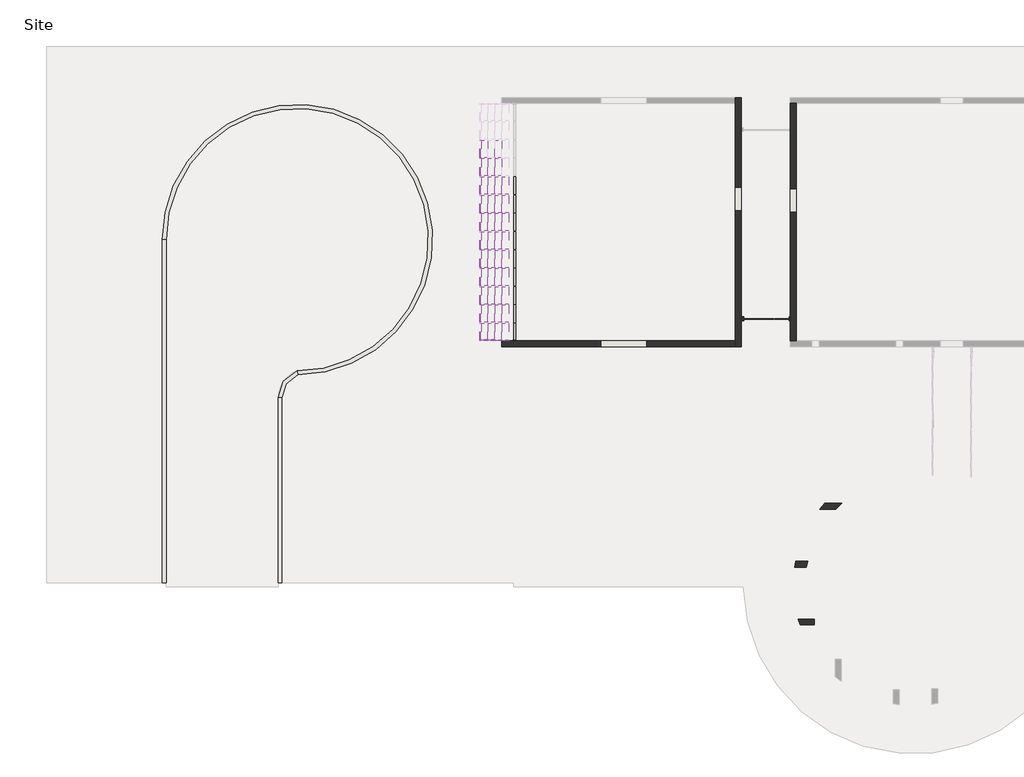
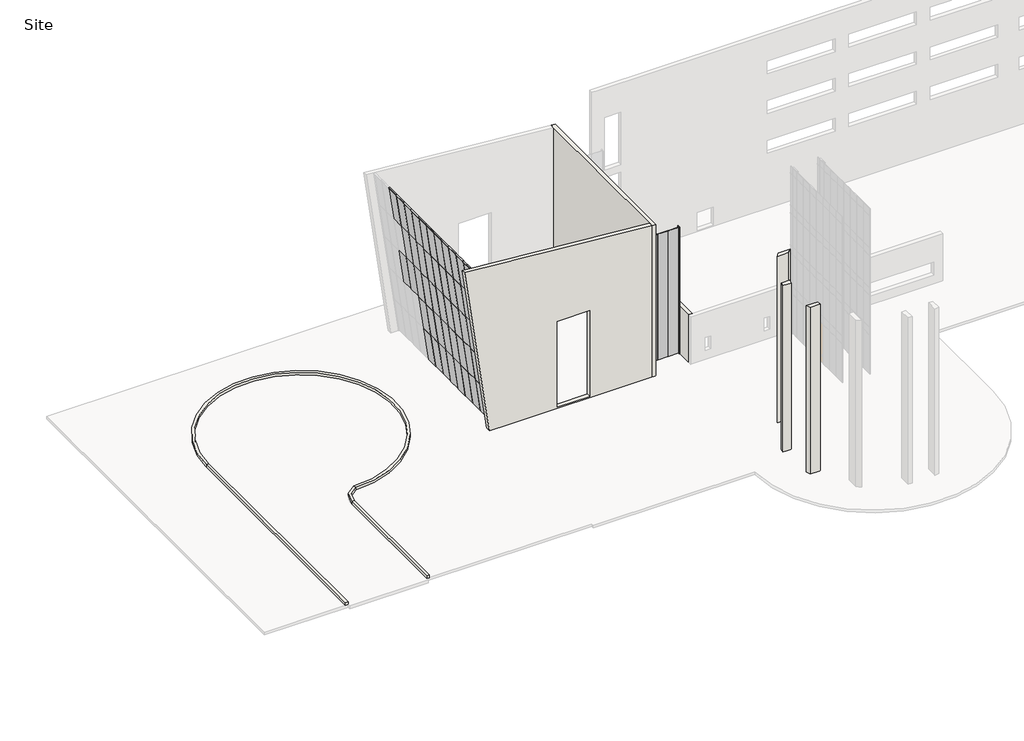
# One storey, part 1 of 4: 53 plates, 16 members, 12 walls.
"""IFC4 building model written with IfcOpenShell, lengths in millimetres."""

from ifc_helpers import new_model, si_unit, point, frame, frame_2d, origin, place, context, project, spatial, polyline, circle_curve, trimmed, segment, composite_curve, outline, extrude, faceted_brep, transform, mapped, element, save
from components import member_f8a9089e, member_5e02c13a, member_50cd645d, member_5d333a65, system_panel_glazed_21f2c726, system_panel_glazed_1400d148, system_panel_glazed_f91df05e, system_panel_glazed_78b5b18d

model = new_model("IFC4")

# Units and contexts
model_context = context("Model", 3, world=origin())
ifc_project = project(units=[si_unit("LENGTHUNIT", "METRE", prefix="MILLI")], contexts=[model_context])

# Site, building, storey
site = spatial("IfcSite", under=ifc_project)
building = spatial("IfcBuilding", under=site)
storey = spatial("IfcBuildingStorey", under=building, Name="Site", Elevation=-152.4)

# Members
placement = place(None, origin())
member_shape = member_f8a9089e(model_context)
element("IfcMember", 1, ObjectType="Rectangular Mullion1 : 2.5\" x 5\" rectangular", at=placement, inside=storey, context=model_context, shape_type="MappedRepresentation", body=[
    mapped(member_shape, transform((-27908.8595656, 38681.824389, 19574.3667708), x_axis=(-0.13917310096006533, 0.0, 0.9902680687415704), y_axis=(-0.9902680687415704, 0.0, -0.13917310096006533), z_axis=(0.0, -1.0, 0.0))),
])
member_2_shape = member_5e02c13a(model_context)
element("IfcMember", 2, ObjectType="Rectangular Mullion1 : 2.5\" x 5\" rectangular", at=placement, inside=storey, context=model_context, shape_type="MappedRepresentation", body=[
    mapped(member_2_shape, transform((-27908.8595656, 53088.9974658, 19574.3667708), x_axis=(-0.13917310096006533, 0.0, 0.9902680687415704), y_axis=(-0.9902680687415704, 0.0, -0.13917310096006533), z_axis=(0.0, -1.0, 0.0))),
])
element("IfcMember", 3, ObjectType="Rectangular Mullion1 : 2.5\" x 5\" rectangular", at=placement, inside=storey, context=model_context, shape_type="MappedRepresentation", body=[
    mapped(member_2_shape, transform((-27908.8595656, 51641.9301581, 19574.3667708), x_axis=(-0.13917310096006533, 0.0, 0.9902680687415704), y_axis=(-0.9902680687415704, 0.0, -0.13917310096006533), z_axis=(0.0, -1.0, 0.0))),
])
element("IfcMember", 4, ObjectType="Rectangular Mullion1 : 2.5\" x 5\" rectangular", at=placement, inside=storey, context=model_context, shape_type="MappedRepresentation", body=[
    mapped(member_2_shape, transform((-27908.8595656, 50194.8628505, 19574.3667708), x_axis=(-0.13917310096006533, 0.0, 0.9902680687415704), y_axis=(-0.9902680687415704, 0.0, -0.13917310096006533), z_axis=(0.0, -1.0, 0.0))),
])
element("IfcMember", 5, ObjectType="Rectangular Mullion1 : 2.5\" x 5\" rectangular", at=placement, inside=storey, context=model_context, shape_type="MappedRepresentation", body=[
    mapped(member_2_shape, transform((-27908.8595656, 48747.7955428, 19574.3667708), x_axis=(-0.13917310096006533, 0.0, 0.9902680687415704), y_axis=(-0.9902680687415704, 0.0, -0.13917310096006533), z_axis=(0.0, -1.0, 0.0))),
])
element("IfcMember", 6, ObjectType="Rectangular Mullion1 : 2.5\" x 5\" rectangular", at=placement, inside=storey, context=model_context, shape_type="MappedRepresentation", body=[
    mapped(member_2_shape, transform((-27908.8595656, 47300.7282352, 19574.3667708), x_axis=(-0.13917310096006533, 0.0, 0.9902680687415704), y_axis=(-0.9902680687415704, 0.0, -0.13917310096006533), z_axis=(0.0, -1.0, 0.0))),
])
element("IfcMember", 7, ObjectType="Rectangular Mullion1 : 2.5\" x 5\" rectangular", at=placement, inside=storey, context=model_context, shape_type="MappedRepresentation", body=[
    mapped(member_2_shape, transform((-27908.8595656, 45853.6609275, 19574.3667708), x_axis=(-0.13917310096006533, 0.0, 0.9902680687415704), y_axis=(-0.9902680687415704, 0.0, -0.13917310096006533), z_axis=(0.0, -1.0, 0.0))),
])
element("IfcMember", 8, ObjectType="Rectangular Mullion1 : 2.5\" x 5\" rectangular", at=placement, inside=storey, context=model_context, shape_type="MappedRepresentation", body=[
    mapped(member_2_shape, transform((-27908.8595656, 44406.5936199, 19574.3667708), x_axis=(-0.13917310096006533, 0.0, 0.9902680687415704), y_axis=(-0.9902680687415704, 0.0, -0.13917310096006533), z_axis=(0.0, -1.0, 0.0))),
])
element("IfcMember", 9, ObjectType="Rectangular Mullion1 : 2.5\" x 5\" rectangular", at=placement, inside=storey, context=model_context, shape_type="MappedRepresentation", body=[
    mapped(member_2_shape, transform((-27908.8595656, 42959.5263122, 19574.3667708), x_axis=(-0.13917310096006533, 0.0, 0.9902680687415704), y_axis=(-0.9902680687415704, 0.0, -0.13917310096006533), z_axis=(0.0, -1.0, 0.0))),
])
element("IfcMember", 10, ObjectType="Rectangular Mullion1 : 2.5\" x 5\" rectangular", at=placement, inside=storey, context=model_context, shape_type="MappedRepresentation", body=[
    mapped(member_2_shape, transform((-27908.8595656, 41512.4590046, 19574.3667708), x_axis=(-0.13917310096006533, 0.0, 0.9902680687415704), y_axis=(-0.9902680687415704, 0.0, -0.13917310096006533), z_axis=(0.0, -1.0, 0.0))),
])
element("IfcMember", 11, ObjectType="Rectangular Mullion1 : 2.5\" x 5\" rectangular", at=placement, inside=storey, context=model_context, shape_type="MappedRepresentation", body=[
    mapped(member_2_shape, transform((-27908.8595656, 40065.391697, 19574.3667708), x_axis=(-0.13917310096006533, 0.0, 0.9902680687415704), y_axis=(-0.9902680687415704, 0.0, -0.13917310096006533), z_axis=(0.0, -1.0, 0.0))),
])
member_3_shape = member_50cd645d(model_context)
element("IfcMember", 12, ObjectType="Rectangular Mullion1 : 2.5\" x 5\" rectangular", at=placement, inside=storey, context=model_context, shape_type="MappedRepresentation", body=[
    mapped(member_3_shape, transform((-25136.1948919, 38618.324389, -154.1674984), x_axis=(0.0, -1.0, 0.0), y_axis=(-0.99026806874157, 0.0, -0.1391731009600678), z_axis=(0.1391731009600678, 0.0, -0.99026806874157))),
])
member_4_shape = member_5d333a65(model_context)
element("IfcMember", 13, ObjectType="Rectangular Mullion1 : 2.5\" x 5\" rectangular", at=placement, inside=storey, context=model_context, shape_type="MappedRepresentation", body=[
    mapped(member_4_shape, transform((-25693.3790742, 38618.324389, 3810.4039622), x_axis=(0.0, -1.0, 0.0), y_axis=(-0.9902680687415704, 0.0, -0.13917310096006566), z_axis=(0.13917310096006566, 0.0, -0.9902680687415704))),
])
element("IfcMember", 14, ObjectType="Rectangular Mullion1 : 2.5\" x 5\" rectangular", at=placement, inside=storey, context=model_context, shape_type="MappedRepresentation", body=[
    mapped(member_4_shape, transform((-26246.1445106, 38618.324389, 7743.5344115), x_axis=(0.0, -1.0, 0.0), y_axis=(-0.9902680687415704, 0.0, -0.13917310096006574), z_axis=(0.13917310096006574, 0.0, -0.9902680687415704))),
])
element("IfcMember", 15, ObjectType="Rectangular Mullion1 : 2.5\" x 5\" rectangular", at=placement, inside=storey, context=model_context, shape_type="MappedRepresentation", body=[
    mapped(member_4_shape, transform((-26798.9099469, 38618.324389, 11676.6648609), x_axis=(0.0, -1.0, 0.0), y_axis=(-0.9902680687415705, 0.0, -0.13917310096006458), z_axis=(0.13917310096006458, 0.0, -0.9902680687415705))),
])
element("IfcMember", 16, ObjectType="Rectangular Mullion1 : 2.5\" x 5\" rectangular", at=placement, inside=storey, context=model_context, shape_type="MappedRepresentation", body=[
    mapped(member_3_shape, transform((-27351.6753833, 38618.324389, 15609.7953102), x_axis=(0.0, -1.0, 0.0), y_axis=(-0.9902680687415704, 0.0, -0.13917310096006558), z_axis=(0.13917310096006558, 0.0, -0.9902680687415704))),
])

# Plates
system_panel_glazed_shape = system_panel_glazed_21f2c726(model_context)
element("IfcPlate", 17, ObjectType="System Panel : Glazed", at=placement, inside=storey, context=model_context, shape_type="MappedRepresentation", body=[
    mapped(system_panel_glazed_shape, transform((-4114.5553134, 40372.511889, -88.9), x_axis=(-1.0, 0.0, 0.0), y_axis=(0.0, -1.0, 0.0), z_axis=(0.0, 0.0, 1.0))),
])
element("IfcPlate", 18, ObjectType="System Panel : Glazed", at=placement, inside=storey, context=model_context, shape_type="MappedRepresentation", body=[
    mapped(system_panel_glazed_shape, transform((-6487.0857008, 40372.511889, -88.9), x_axis=(-1.0, 0.0, 0.0), y_axis=(0.0, -1.0, 0.0), z_axis=(0.0, 0.0, 1.0))),
])
system_panel_glazed_2_shape = system_panel_glazed_1400d148(model_context)
element("IfcPlate", 19, ObjectType="System Panel : Glazed", at=placement, inside=storey, context=model_context, shape_type="MappedRepresentation", body=[
    mapped(system_panel_glazed_2_shape, transform((-5300.8205071, 40372.511889, -88.9), x_axis=(-1.0, 0.0, 0.0), y_axis=(0.0, -1.0, 0.0), z_axis=(0.0, 0.0, 1.0))),
])
system_panel_glazed_3_shape = system_panel_glazed_f91df05e(model_context)
element("IfcPlate", 20, ObjectType="System Panel : Glazed", at=placement, inside=storey, context=model_context, shape_type="MappedRepresentation", body=[
    mapped(system_panel_glazed_3_shape, transform((-25145.0323838, 39341.858043, -91.285476), x_axis=(0.0, -1.0, 0.0), y_axis=(0.9902680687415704, 0.0, 0.13917310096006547), z_axis=(-0.13917310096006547, 0.0, 0.9902680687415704))),
])
element("IfcPlate", 21, ObjectType="System Panel : Glazed", at=placement, inside=storey, context=model_context, shape_type="MappedRepresentation", body=[
    mapped(system_panel_glazed_3_shape, transform((-25697.7978202, 39341.858043, 3841.8449733), x_axis=(0.0, -1.0, 0.0), y_axis=(0.9902680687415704, 0.0, 0.13917310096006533), z_axis=(-0.13917310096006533, 0.0, 0.9902680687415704))),
])
element("IfcPlate", 22, ObjectType="System Panel : Glazed", at=placement, inside=storey, context=model_context, shape_type="MappedRepresentation", body=[
    mapped(system_panel_glazed_3_shape, transform((-26250.5632565, 39341.858043, 7774.9754227), x_axis=(0.0, -1.0, 0.0), y_axis=(0.9902680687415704, 0.0, 0.13917310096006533), z_axis=(-0.13917310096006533, 0.0, 0.9902680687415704))),
])
element("IfcPlate", 23, ObjectType="System Panel : Glazed", at=placement, inside=storey, context=model_context, shape_type="MappedRepresentation", body=[
    mapped(system_panel_glazed_3_shape, transform((-26803.3286929, 39341.858043, 11708.105872), x_axis=(0.0, -1.0, 0.0), y_axis=(0.9902680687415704, 0.0, 0.13917310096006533), z_axis=(-0.13917310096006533, 0.0, 0.9902680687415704))),
])
element("IfcPlate", 24, ObjectType="System Panel : Glazed", at=placement, inside=storey, context=model_context, shape_type="MappedRepresentation", body=[
    mapped(system_panel_glazed_3_shape, transform((-27356.0941292, 39341.858043, 15641.2363214), x_axis=(0.0, -1.0, 0.0), y_axis=(0.9902680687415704, 0.0, 0.13917310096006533), z_axis=(-0.13917310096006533, 0.0, 0.9902680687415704))),
])
system_panel_glazed_4_shape = system_panel_glazed_78b5b18d(model_context)
element("IfcPlate", 25, ObjectType="System Panel : Glazed", at=placement, inside=storey, context=model_context, shape_type="MappedRepresentation", body=[
    mapped(system_panel_glazed_4_shape, transform((-25145.0323838, 50886.6465043, -91.285476), x_axis=(0.0, -1.0, 0.0), y_axis=(0.9902680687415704, 0.0, 0.13917310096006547), z_axis=(-0.13917310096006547, 0.0, 0.9902680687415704))),
])
element("IfcPlate", 26, ObjectType="System Panel : Glazed", at=placement, inside=storey, context=model_context, shape_type="MappedRepresentation", body=[
    mapped(system_panel_glazed_4_shape, transform((-25145.0323838, 49439.5791967, -91.285476), x_axis=(0.0, -1.0, 0.0), y_axis=(0.9902680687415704, 0.0, 0.13917310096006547), z_axis=(-0.13917310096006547, 0.0, 0.9902680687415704))),
])
element("IfcPlate", 27, ObjectType="System Panel : Glazed", at=placement, inside=storey, context=model_context, shape_type="MappedRepresentation", body=[
    mapped(system_panel_glazed_4_shape, transform((-25145.0323838, 47992.511889, -91.285476), x_axis=(0.0, -1.0, 0.0), y_axis=(0.9902680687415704, 0.0, 0.13917310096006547), z_axis=(-0.13917310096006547, 0.0, 0.9902680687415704))),
])
element("IfcPlate", 28, ObjectType="System Panel : Glazed", at=placement, inside=storey, context=model_context, shape_type="MappedRepresentation", body=[
    mapped(system_panel_glazed_4_shape, transform((-25145.0323838, 46545.4445814, -91.285476), x_axis=(0.0, -1.0, 0.0), y_axis=(0.9902680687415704, 0.0, 0.13917310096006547), z_axis=(-0.13917310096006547, 0.0, 0.9902680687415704))),
])
element("IfcPlate", 29, ObjectType="System Panel : Glazed", at=placement, inside=storey, context=model_context, shape_type="MappedRepresentation", body=[
    mapped(system_panel_glazed_4_shape, transform((-25145.0323838, 45098.3772737, -91.285476), x_axis=(0.0, -1.0, 0.0), y_axis=(0.9902680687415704, 0.0, 0.13917310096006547), z_axis=(-0.13917310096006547, 0.0, 0.9902680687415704))),
])
element("IfcPlate", 30, ObjectType="System Panel : Glazed", at=placement, inside=storey, context=model_context, shape_type="MappedRepresentation", body=[
    mapped(system_panel_glazed_4_shape, transform((-25145.0323838, 43651.3099661, -91.285476), x_axis=(0.0, -1.0, 0.0), y_axis=(0.9902680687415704, 0.0, 0.13917310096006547), z_axis=(-0.13917310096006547, 0.0, 0.9902680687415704))),
])
element("IfcPlate", 31, ObjectType="System Panel : Glazed", at=placement, inside=storey, context=model_context, shape_type="MappedRepresentation", body=[
    mapped(system_panel_glazed_4_shape, transform((-25145.0323838, 42204.2426584, -91.285476), x_axis=(0.0, -1.0, 0.0), y_axis=(0.9902680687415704, 0.0, 0.13917310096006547), z_axis=(-0.13917310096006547, 0.0, 0.9902680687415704))),
])
element("IfcPlate", 32, ObjectType="System Panel : Glazed", at=placement, inside=storey, context=model_context, shape_type="MappedRepresentation", body=[
    mapped(system_panel_glazed_4_shape, transform((-25145.0323838, 40757.1753508, -91.285476), x_axis=(0.0, -1.0, 0.0), y_axis=(0.9902680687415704, 0.0, 0.13917310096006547), z_axis=(-0.13917310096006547, 0.0, 0.9902680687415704))),
])
element("IfcPlate", 33, ObjectType="System Panel : Glazed", at=placement, inside=storey, context=model_context, shape_type="MappedRepresentation", body=[
    mapped(system_panel_glazed_4_shape, transform((-25697.7978202, 50886.6465043, 3841.8449733), x_axis=(0.0, -1.0, 0.0), y_axis=(0.9902680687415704, 0.0, 0.13917310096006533), z_axis=(-0.13917310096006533, 0.0, 0.9902680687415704))),
])
element("IfcPlate", 34, ObjectType="System Panel : Glazed", at=placement, inside=storey, context=model_context, shape_type="MappedRepresentation", body=[
    mapped(system_panel_glazed_4_shape, transform((-25697.7978202, 49439.5791967, 3841.8449733), x_axis=(0.0, -1.0, 0.0), y_axis=(0.9902680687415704, 0.0, 0.13917310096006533), z_axis=(-0.13917310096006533, 0.0, 0.9902680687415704))),
])
element("IfcPlate", 35, ObjectType="System Panel : Glazed", at=placement, inside=storey, context=model_context, shape_type="MappedRepresentation", body=[
    mapped(system_panel_glazed_4_shape, transform((-25697.7978202, 47992.511889, 3841.8449733), x_axis=(0.0, -1.0, 0.0), y_axis=(0.9902680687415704, 0.0, 0.13917310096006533), z_axis=(-0.13917310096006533, 0.0, 0.9902680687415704))),
])
element("IfcPlate", 36, ObjectType="System Panel : Glazed", at=placement, inside=storey, context=model_context, shape_type="MappedRepresentation", body=[
    mapped(system_panel_glazed_4_shape, transform((-25697.7978202, 46545.4445814, 3841.8449733), x_axis=(0.0, -1.0, 0.0), y_axis=(0.9902680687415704, 0.0, 0.13917310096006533), z_axis=(-0.13917310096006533, 0.0, 0.9902680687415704))),
])
element("IfcPlate", 37, ObjectType="System Panel : Glazed", at=placement, inside=storey, context=model_context, shape_type="MappedRepresentation", body=[
    mapped(system_panel_glazed_4_shape, transform((-25697.7978202, 45098.3772737, 3841.8449733), x_axis=(0.0, -1.0, 0.0), y_axis=(0.9902680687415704, 0.0, 0.13917310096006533), z_axis=(-0.13917310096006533, 0.0, 0.9902680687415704))),
])
element("IfcPlate", 38, ObjectType="System Panel : Glazed", at=placement, inside=storey, context=model_context, shape_type="MappedRepresentation", body=[
    mapped(system_panel_glazed_4_shape, transform((-25697.7978202, 43651.3099661, 3841.8449733), x_axis=(0.0, -1.0, 0.0), y_axis=(0.9902680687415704, 0.0, 0.13917310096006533), z_axis=(-0.13917310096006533, 0.0, 0.9902680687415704))),
])
element("IfcPlate", 39, ObjectType="System Panel : Glazed", at=placement, inside=storey, context=model_context, shape_type="MappedRepresentation", body=[
    mapped(system_panel_glazed_4_shape, transform((-25697.7978202, 42204.2426584, 3841.8449733), x_axis=(0.0, -1.0, 0.0), y_axis=(0.9902680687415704, 0.0, 0.13917310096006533), z_axis=(-0.13917310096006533, 0.0, 0.9902680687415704))),
])
element("IfcPlate", 40, ObjectType="System Panel : Glazed", at=placement, inside=storey, context=model_context, shape_type="MappedRepresentation", body=[
    mapped(system_panel_glazed_4_shape, transform((-25697.7978202, 40757.1753508, 3841.8449733), x_axis=(0.0, -1.0, 0.0), y_axis=(0.9902680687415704, 0.0, 0.13917310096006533), z_axis=(-0.13917310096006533, 0.0, 0.9902680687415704))),
])
element("IfcPlate", 41, ObjectType="System Panel : Glazed", at=placement, inside=storey, context=model_context, shape_type="MappedRepresentation", body=[
    mapped(system_panel_glazed_4_shape, transform((-26250.5632565, 53780.7811196, 7774.9754227), x_axis=(0.0, -1.0, 0.0), y_axis=(0.9902680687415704, 0.0, 0.13917310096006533), z_axis=(-0.13917310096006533, 0.0, 0.9902680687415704))),
])
element("IfcPlate", 42, ObjectType="System Panel : Glazed", at=placement, inside=storey, context=model_context, shape_type="MappedRepresentation", body=[
    mapped(system_panel_glazed_4_shape, transform((-26250.5632565, 52333.7138119, 7774.9754227), x_axis=(0.0, -1.0, 0.0), y_axis=(0.9902680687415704, 0.0, 0.13917310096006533), z_axis=(-0.13917310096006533, 0.0, 0.9902680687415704))),
])
element("IfcPlate", 43, ObjectType="System Panel : Glazed", at=placement, inside=storey, context=model_context, shape_type="MappedRepresentation", body=[
    mapped(system_panel_glazed_4_shape, transform((-26250.5632565, 50886.6465043, 7774.9754227), x_axis=(0.0, -1.0, 0.0), y_axis=(0.9902680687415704, 0.0, 0.13917310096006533), z_axis=(-0.13917310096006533, 0.0, 0.9902680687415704))),
])
element("IfcPlate", 44, ObjectType="System Panel : Glazed", at=placement, inside=storey, context=model_context, shape_type="MappedRepresentation", body=[
    mapped(system_panel_glazed_4_shape, transform((-26250.5632565, 49439.5791967, 7774.9754227), x_axis=(0.0, -1.0, 0.0), y_axis=(0.9902680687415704, 0.0, 0.13917310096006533), z_axis=(-0.13917310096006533, 0.0, 0.9902680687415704))),
])
element("IfcPlate", 45, ObjectType="System Panel : Glazed", at=placement, inside=storey, context=model_context, shape_type="MappedRepresentation", body=[
    mapped(system_panel_glazed_4_shape, transform((-26250.5632565, 47992.511889, 7774.9754227), x_axis=(0.0, -1.0, 0.0), y_axis=(0.9902680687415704, 0.0, 0.13917310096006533), z_axis=(-0.13917310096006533, 0.0, 0.9902680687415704))),
])
element("IfcPlate", 46, ObjectType="System Panel : Glazed", at=placement, inside=storey, context=model_context, shape_type="MappedRepresentation", body=[
    mapped(system_panel_glazed_4_shape, transform((-26250.5632565, 46545.4445814, 7774.9754227), x_axis=(0.0, -1.0, 0.0), y_axis=(0.9902680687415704, 0.0, 0.13917310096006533), z_axis=(-0.13917310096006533, 0.0, 0.9902680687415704))),
])
element("IfcPlate", 47, ObjectType="System Panel : Glazed", at=placement, inside=storey, context=model_context, shape_type="MappedRepresentation", body=[
    mapped(system_panel_glazed_4_shape, transform((-26250.5632565, 45098.3772737, 7774.9754227), x_axis=(0.0, -1.0, 0.0), y_axis=(0.9902680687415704, 0.0, 0.13917310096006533), z_axis=(-0.13917310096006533, 0.0, 0.9902680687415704))),
])
element("IfcPlate", 48, ObjectType="System Panel : Glazed", at=placement, inside=storey, context=model_context, shape_type="MappedRepresentation", body=[
    mapped(system_panel_glazed_4_shape, transform((-26250.5632565, 43651.3099661, 7774.9754227), x_axis=(0.0, -1.0, 0.0), y_axis=(0.9902680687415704, 0.0, 0.13917310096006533), z_axis=(-0.13917310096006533, 0.0, 0.9902680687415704))),
])
element("IfcPlate", 49, ObjectType="System Panel : Glazed", at=placement, inside=storey, context=model_context, shape_type="MappedRepresentation", body=[
    mapped(system_panel_glazed_4_shape, transform((-26250.5632565, 42204.2426584, 7774.9754227), x_axis=(0.0, -1.0, 0.0), y_axis=(0.9902680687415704, 0.0, 0.13917310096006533), z_axis=(-0.13917310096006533, 0.0, 0.9902680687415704))),
])
element("IfcPlate", 50, ObjectType="System Panel : Glazed", at=placement, inside=storey, context=model_context, shape_type="MappedRepresentation", body=[
    mapped(system_panel_glazed_4_shape, transform((-26250.5632565, 40757.1753508, 7774.9754227), x_axis=(0.0, -1.0, 0.0), y_axis=(0.9902680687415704, 0.0, 0.13917310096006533), z_axis=(-0.13917310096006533, 0.0, 0.9902680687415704))),
])
element("IfcPlate", 51, ObjectType="System Panel : Glazed", at=placement, inside=storey, context=model_context, shape_type="MappedRepresentation", body=[
    mapped(system_panel_glazed_4_shape, transform((-26803.3286929, 52333.7138119, 11708.105872), x_axis=(0.0, -1.0, 0.0), y_axis=(0.9902680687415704, 0.0, 0.13917310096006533), z_axis=(-0.13917310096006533, 0.0, 0.9902680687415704))),
])
element("IfcPlate", 52, ObjectType="System Panel : Glazed", at=placement, inside=storey, context=model_context, shape_type="MappedRepresentation", body=[
    mapped(system_panel_glazed_4_shape, transform((-26803.3286929, 50886.6465043, 11708.105872), x_axis=(0.0, -1.0, 0.0), y_axis=(0.9902680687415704, 0.0, 0.13917310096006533), z_axis=(-0.13917310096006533, 0.0, 0.9902680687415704))),
])
element("IfcPlate", 53, ObjectType="System Panel : Glazed", at=placement, inside=storey, context=model_context, shape_type="MappedRepresentation", body=[
    mapped(system_panel_glazed_4_shape, transform((-26803.3286929, 49439.5791967, 11708.105872), x_axis=(0.0, -1.0, 0.0), y_axis=(0.9902680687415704, 0.0, 0.13917310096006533), z_axis=(-0.13917310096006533, 0.0, 0.9902680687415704))),
])
element("IfcPlate", 54, ObjectType="System Panel : Glazed", at=placement, inside=storey, context=model_context, shape_type="MappedRepresentation", body=[
    mapped(system_panel_glazed_4_shape, transform((-26803.3286929, 47992.511889, 11708.105872), x_axis=(0.0, -1.0, 0.0), y_axis=(0.9902680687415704, 0.0, 0.13917310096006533), z_axis=(-0.13917310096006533, 0.0, 0.9902680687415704))),
])
element("IfcPlate", 55, ObjectType="System Panel : Glazed", at=placement, inside=storey, context=model_context, shape_type="MappedRepresentation", body=[
    mapped(system_panel_glazed_4_shape, transform((-26803.3286929, 46545.4445814, 11708.105872), x_axis=(0.0, -1.0, 0.0), y_axis=(0.9902680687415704, 0.0, 0.13917310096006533), z_axis=(-0.13917310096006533, 0.0, 0.9902680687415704))),
])
element("IfcPlate", 56, ObjectType="System Panel : Glazed", at=placement, inside=storey, context=model_context, shape_type="MappedRepresentation", body=[
    mapped(system_panel_glazed_4_shape, transform((-26803.3286929, 45098.3772737, 11708.105872), x_axis=(0.0, -1.0, 0.0), y_axis=(0.9902680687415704, 0.0, 0.13917310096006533), z_axis=(-0.13917310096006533, 0.0, 0.9902680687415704))),
])
element("IfcPlate", 57, ObjectType="System Panel : Glazed", at=placement, inside=storey, context=model_context, shape_type="MappedRepresentation", body=[
    mapped(system_panel_glazed_4_shape, transform((-26803.3286929, 43651.3099661, 11708.105872), x_axis=(0.0, -1.0, 0.0), y_axis=(0.9902680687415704, 0.0, 0.13917310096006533), z_axis=(-0.13917310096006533, 0.0, 0.9902680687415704))),
])
element("IfcPlate", 58, ObjectType="System Panel : Glazed", at=placement, inside=storey, context=model_context, shape_type="MappedRepresentation", body=[
    mapped(system_panel_glazed_4_shape, transform((-26803.3286929, 42204.2426584, 11708.105872), x_axis=(0.0, -1.0, 0.0), y_axis=(0.9902680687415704, 0.0, 0.13917310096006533), z_axis=(-0.13917310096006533, 0.0, 0.9902680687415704))),
])
element("IfcPlate", 59, ObjectType="System Panel : Glazed", at=placement, inside=storey, context=model_context, shape_type="MappedRepresentation", body=[
    mapped(system_panel_glazed_4_shape, transform((-26803.3286929, 40757.1753508, 11708.105872), x_axis=(0.0, -1.0, 0.0), y_axis=(0.9902680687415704, 0.0, 0.13917310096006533), z_axis=(-0.13917310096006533, 0.0, 0.9902680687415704))),
])
element("IfcPlate", 60, ObjectType="System Panel : Glazed", at=placement, inside=storey, context=model_context, shape_type="MappedRepresentation", body=[
    mapped(system_panel_glazed_4_shape, transform((-27356.0941292, 53780.7811196, 15641.2363214), x_axis=(0.0, -1.0, 0.0), y_axis=(0.9902680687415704, 0.0, 0.13917310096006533), z_axis=(-0.13917310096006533, 0.0, 0.9902680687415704))),
])
element("IfcPlate", 61, ObjectType="System Panel : Glazed", at=placement, inside=storey, context=model_context, shape_type="MappedRepresentation", body=[
    mapped(system_panel_glazed_4_shape, transform((-27356.0941292, 52333.7138119, 15641.2363214), x_axis=(0.0, -1.0, 0.0), y_axis=(0.9902680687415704, 0.0, 0.13917310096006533), z_axis=(-0.13917310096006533, 0.0, 0.9902680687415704))),
])
element("IfcPlate", 62, ObjectType="System Panel : Glazed", at=placement, inside=storey, context=model_context, shape_type="MappedRepresentation", body=[
    mapped(system_panel_glazed_4_shape, transform((-27356.0941292, 50886.6465043, 15641.2363214), x_axis=(0.0, -1.0, 0.0), y_axis=(0.9902680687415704, 0.0, 0.13917310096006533), z_axis=(-0.13917310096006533, 0.0, 0.9902680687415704))),
])
element("IfcPlate", 63, ObjectType="System Panel : Glazed", at=placement, inside=storey, context=model_context, shape_type="MappedRepresentation", body=[
    mapped(system_panel_glazed_4_shape, transform((-27356.0941292, 49439.5791967, 15641.2363214), x_axis=(0.0, -1.0, 0.0), y_axis=(0.9902680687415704, 0.0, 0.13917310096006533), z_axis=(-0.13917310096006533, 0.0, 0.9902680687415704))),
])
element("IfcPlate", 64, ObjectType="System Panel : Glazed", at=placement, inside=storey, context=model_context, shape_type="MappedRepresentation", body=[
    mapped(system_panel_glazed_4_shape, transform((-27356.0941292, 47992.511889, 15641.2363214), x_axis=(0.0, -1.0, 0.0), y_axis=(0.9902680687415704, 0.0, 0.13917310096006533), z_axis=(-0.13917310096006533, 0.0, 0.9902680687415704))),
])
element("IfcPlate", 65, ObjectType="System Panel : Glazed", at=placement, inside=storey, context=model_context, shape_type="MappedRepresentation", body=[
    mapped(system_panel_glazed_4_shape, transform((-27356.0941292, 46545.4445814, 15641.2363214), x_axis=(0.0, -1.0, 0.0), y_axis=(0.9902680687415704, 0.0, 0.13917310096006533), z_axis=(-0.13917310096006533, 0.0, 0.9902680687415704))),
])
element("IfcPlate", 66, ObjectType="System Panel : Glazed", at=placement, inside=storey, context=model_context, shape_type="MappedRepresentation", body=[
    mapped(system_panel_glazed_4_shape, transform((-27356.0941292, 45098.3772737, 15641.2363214), x_axis=(0.0, -1.0, 0.0), y_axis=(0.9902680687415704, 0.0, 0.13917310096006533), z_axis=(-0.13917310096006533, 0.0, 0.9902680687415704))),
])
element("IfcPlate", 67, ObjectType="System Panel : Glazed", at=placement, inside=storey, context=model_context, shape_type="MappedRepresentation", body=[
    mapped(system_panel_glazed_4_shape, transform((-27356.0941292, 43651.3099661, 15641.2363214), x_axis=(0.0, -1.0, 0.0), y_axis=(0.9902680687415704, 0.0, 0.13917310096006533), z_axis=(-0.13917310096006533, 0.0, 0.9902680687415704))),
])
element("IfcPlate", 68, ObjectType="System Panel : Glazed", at=placement, inside=storey, context=model_context, shape_type="MappedRepresentation", body=[
    mapped(system_panel_glazed_4_shape, transform((-27356.0941292, 42204.2426584, 15641.2363214), x_axis=(0.0, -1.0, 0.0), y_axis=(0.9902680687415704, 0.0, 0.13917310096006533), z_axis=(-0.13917310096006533, 0.0, 0.9902680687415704))),
])
element("IfcPlate", 69, ObjectType="System Panel : Glazed", at=placement, inside=storey, context=model_context, shape_type="MappedRepresentation", body=[
    mapped(system_panel_glazed_4_shape, transform((-27356.0941292, 40757.1753508, 15641.2363214), x_axis=(0.0, -1.0, 0.0), y_axis=(0.9902680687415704, 0.0, 0.13917310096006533), z_axis=(-0.13917310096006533, 0.0, 0.9902680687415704))),
])

# Walls
element("IfcWall", 70, ObjectType="Generic - 12\"", at=placement, inside=storey, context=model_context, shape_type="SweptSolid", body=[
    extrude(outline(polyline([(-52722.4307976, 46620.911889), (-52722.4307976, 19493.711889), (-53027.2307976, 19493.711889), (-53027.2307976, 46620.911889), (-52722.4307976, 46620.911889)])), frame((0.0, 0.0, -152.4), z_axis=(0.0, 0.0, 1.0), x_axis=(1.0, 0.0, 0.0)), (0.0, 0.0, 1.0), 304.8),
])
element("IfcWall", 71, ObjectType="Generic - 12\"", at=placement, inside=storey, context=model_context, shape_type="SweptSolid", body=[
    extrude(outline(composite_curve([segment(polyline([(-42332.6379779, 35952.9450339), (-42384.6461103, 36257.743054)]), True, "CONTINUOUS"), segment(trimmed(circle_curve(frame_2d((-42359.2307976, 46620.911889)), 10363.2), [point((-42384.6461103, 36257.743054))], [point((-52722.4307976, 46620.911889))], True, "CARTESIAN"), True, "CONTINUOUS"), segment(polyline([(-52722.4307976, 46620.911889), (-53027.2307976, 46620.911889)]), True, "CONTINUOUS"), segment(trimmed(circle_curve(frame_2d((-42359.2307976, 46620.911889)), 10668.0), [point((-53027.2307976, 46620.911889))], [point((-42332.6379779, 35952.9450339))], False, "CARTESIAN"), True, "CONTINUOUS")], self_intersect=False)), frame((0.0, 0.0, -152.4), z_axis=(0.0, 0.0, 1.0), x_axis=(1.0, 0.0, 0.0)), (0.0, 0.0, 1.0), 304.8),
])
element("IfcWall", 72, ObjectType="Generic - 12\"", at=placement, inside=storey, context=model_context, shape_type="SweptSolid", body=[
    extrude(outline(polyline([(-43578.4307976, 34125.8154666), (-43578.4307976, 19493.711889), (-43883.2307976, 19493.711889), (-43883.2307976, 34122.4704857), (-43578.4307976, 34125.8154666)])), frame((0.0, 0.0, -152.4), z_axis=(0.0, 0.0, 1.0), x_axis=(1.0, 0.0, 0.0)), (0.0, 0.0, 1.0), 304.8),
])
element("IfcWall", 73, ObjectType="Generic - 12\"", at=placement, inside=storey, context=model_context, shape_type="SweptSolid", body=[
    extrude(outline(composite_curve([segment(polyline([(-43578.4307976, 34125.8154666), (-43883.2307976, 34122.4704857)]), True, "CONTINUOUS"), segment(trimmed(circle_curve(frame_2d((-41679.1721267, 34169.1174245)), 2204.5522361), [point((-43883.2307976, 34122.4704857))], [point((-42384.6461103, 36257.743054))], False, "CARTESIAN"), True, "CONTINUOUS"), segment(polyline([(-42384.6461103, 36257.743054), (-42332.6379779, 35952.9450339)]), True, "CONTINUOUS"), segment(trimmed(circle_curve(frame_2d((-41679.1721267, 34169.1174245)), 1899.7522361), [point((-42332.6379779, 35952.9450339))], [point((-43578.4307976, 34125.8154666))], True, "CARTESIAN"), True, "CONTINUOUS")], self_intersect=False)), frame((0.0, 0.0, -152.4), z_axis=(0.0, 0.0, 1.0), x_axis=(1.0, 0.0, 0.0)), (0.0, 0.0, 1.0), 304.8),
])
element("IfcWall", 74, ObjectType="Stone on CMU", at=placement, inside=storey, context=model_context, shape_type="SweptSolid", body=[
    extrude(outline(composite_curve([segment(polyline([(-697.0922024, 25777.9642299), (622.698389, 25777.9642299)]), True, "CONTINUOUS"), segment(trimmed(circle_curve(frame_2d((6332.5692024, 19341.311889)), 8604.25), [point((622.698389, 25777.9642299))], [point((148.6151143, 25323.9392299))], True, "CARTESIAN"), True, "CONTINUOUS"), segment(polyline([(148.6151143, 25323.9392299), (-1087.3231771, 25323.9392299)]), True, "CONTINUOUS"), segment(trimmed(circle_curve(frame_2d((6332.5692024, 19341.311889)), 9531.35), [point((-1087.3231771, 25323.9392299))], [point((-697.0922024, 25777.9642299))], False, "CARTESIAN"), True, "CONTINUOUS")], self_intersect=False)), frame((0.0, 0.0, -152.4), z_axis=(0.0, 0.0, 1.0), x_axis=(1.0, 0.0, 0.0)), (0.0, 0.0, 1.0), 19812.0),
])
element("IfcWall", 75, ObjectType="Stone on CMU", at=placement, inside=storey, context=model_context, shape_type="SweptSolid", body=[
    extrude(outline(composite_curve([segment(polyline([(-2806.1889997, 16633.9642299), (-1519.0200926, 16633.9642299), (-1519.0200926, 16179.9392299), (-2659.2245971, 16179.9392299)]), True, "CONTINUOUS"), segment(trimmed(circle_curve(frame_2d((6332.5692024, 19341.311889)), 9531.35), [point((-2659.2245971, 16179.9392299))], [point((-2806.1889997, 16633.9642299))], False, "CARTESIAN"), True, "CONTINUOUS")], self_intersect=False)), frame((0.0, 0.0, -152.4), z_axis=(0.0, 0.0, 1.0), x_axis=(1.0, 0.0, 0.0)), (0.0, 0.0, 1.0), 19812.0),
])
element("IfcWall", 76, ObjectType="Stone on CMU", at=placement, inside=storey, context=model_context, shape_type="SweptSolid", body=[
    extrude(outline(composite_curve([segment(polyline([(-3014.6070809, 21205.9642299), (-2067.2039916, 21205.9642299)]), True, "CONTINUOUS"), segment(trimmed(circle_curve(frame_2d((6332.5692024, 19341.311889)), 8604.25), [point((-2067.2039916, 21205.9642299))], [point((-2155.2602356, 20751.9392299))], True, "CARTESIAN"), True, "CONTINUOUS"), segment(polyline([(-2155.2602356, 20751.9392299), (-3093.8173443, 20751.9392299)]), True, "CONTINUOUS"), segment(trimmed(circle_curve(frame_2d((6332.5692024, 19341.311889)), 9531.35), [point((-3093.8173443, 20751.9392299))], [point((-3014.6070809, 21205.9642299))], False, "CARTESIAN"), True, "CONTINUOUS")], self_intersect=False)), frame((0.0, 0.0, -152.4), z_axis=(0.0, 0.0, 1.0), x_axis=(1.0, 0.0, 0.0)), (0.0, 0.0, 1.0), 19812.0),
])
element("IfcWall", 77, ObjectType="Stone on CMU", at=placement, inside=storey, context=model_context, shape_type="Brep", body=[
    faceted_brep([(-2965.7977165, 38618.324389, 5486.4), (-2965.7977165, 48792.611889, 5486.4), (-2965.7977165, 50621.411889, 5486.4), (-2965.7977165, 57366.699389, 5486.4), (-3419.8227165, 57366.699389, 5486.4), (-3419.8227165, 50621.411889, 5486.4), (-3419.8227165, 48792.611889, 5486.4), (-3419.8227165, 38618.324389, 5486.4), (-2965.7977165, 38618.324389, -152.4), (-2965.7977165, 57366.699389, -152.4), (-2965.7977165, 50621.411889, 0.0), (-2965.7977165, 48792.611889, 0.0), (-2965.7977165, 48792.611889, 2133.6), (-2965.7977165, 50621.411889, 2133.6), (-3419.8227165, 38618.324389, -152.4), (-3419.8227165, 57366.699389, -152.4), (-3419.8227165, 50621.411889, 0.0), (-3419.8227165, 50621.411889, 2133.6), (-3419.8227165, 48792.611889, 2133.6), (-3419.8227165, 48792.611889, 0.0)], [[[0, 1, 2, 3, 4, 5, 6, 7]], [[8, 9, 3, 2, 1, 0], [10, 11, 12, 13]], [[14, 7, 6, 5, 4, 15], [16, 17, 18, 19]], [[9, 8, 14, 15]], [[8, 0, 7, 14]], [[3, 9, 15, 4]], [[17, 16, 10, 13]], [[18, 17, 13, 12]], [[19, 18, 12, 11]], [[16, 19, 11, 10]]]),
])
element("IfcWall", 78, ObjectType="Stone on CMU", at=placement, inside=storey, context=model_context, shape_type="Brep", body=[
    faceted_brep([(-7761.2557976, 57820.724389, -152.4), (-7761.2557976, 57366.699389, -152.4), (-7761.2557976, 38618.324389, -152.4), (-7761.2557976, 38164.299389, -152.4), (-7761.2557976, 38164.299389, 17898.2153222), (-7761.2557976, 38618.324389, 17898.2153222), (-7761.2557976, 57366.699389, 17898.2153222), (-7761.2557976, 57820.724389, 17898.2153222), (-7761.2557976, 50735.711889, 0.0), (-7761.2557976, 50735.711889, 2133.6), (-7761.2557976, 48906.911889, 2133.6), (-7761.2557976, 48906.911889, 0.0), (-7307.2307976, 57820.724389, -152.4), (-7307.2307976, 57820.724389, 17860.3799055), (-7307.2307976, 38164.299389, 17860.3799055), (-7307.2307976, 38164.299389, -152.4), (-7307.2307976, 50735.711889, 0.0), (-7307.2307976, 48906.911889, 0.0), (-7307.2307976, 48906.911889, 2133.6), (-7307.2307976, 50735.711889, 2133.6)], [[[0, 1, 2, 3, 4, 5, 6, 7], [8, 9, 10, 11]], [[12, 13, 14, 15], [16, 17, 18, 19]], [[3, 2, 1, 0, 12, 15]], [[4, 3, 15, 14]], [[0, 7, 13, 12]], [[7, 6, 5, 4, 14, 13]], [[9, 8, 16, 19]], [[10, 9, 19, 18]], [[11, 10, 18, 17]], [[8, 11, 17, 16]]]),
])
element("IfcWall", 79, ObjectType="Stone on CMU", at=placement, inside=storey, context=model_context, shape_type="SweptSolid", body=[
    extrude(outline(polyline([(-152.4, -26050.8432976), (-152.4, -7761.2557976), (17898.2153222, -7761.2557976), (19654.3186785, -28834.4960734), (-152.4, -26050.8432976)]), holes=[polyline([(10210.8, -14747.8432976), (0.0, -14747.8432976), (0.0, -18405.4432976), (10210.8, -18405.4432976), (10210.8, -14747.8432976)])]), frame((0.0, 38164.299389, 0.0), z_axis=(0.0, 1.0, 0.0), x_axis=(0.0, 0.0, 1.0)), (0.0, 0.0, 1.0), 454.025),
])
element("IfcWall", 80, ObjectType="a_Mtl panel on Mtl stud", at=placement, inside=storey, context=model_context, shape_type="SweptSolid", body=[
    extrude(outline(polyline([(-3497.6102165, 40528.086889), (-3419.8227165, 40528.086889), (-3419.8227165, 40216.936889), (-3497.6102165, 40216.936889), (-3497.6102165, 40528.086889)])), frame((0.0, 0.0, -152.4), z_axis=(0.0, 0.0, 1.0), x_axis=(1.0, 0.0, 0.0)), (0.0, 0.0, 1.0), 15087.6),
])
element("IfcWall", 81, ObjectType="a_Mtl panel on Mtl stud", at=placement, inside=storey, context=model_context, shape_type="SweptSolid", body=[
    extrude(outline(polyline([(-7307.2307976, 40528.086889), (-7104.0307976, 40528.086889), (-7104.0307976, 40216.936889), (-7307.2307976, 40216.936889), (-7307.2307976, 40528.086889)])), frame((0.0, 0.0, -152.4), z_axis=(0.0, 0.0, 1.0), x_axis=(1.0, 0.0, 0.0)), (0.0, 0.0, 1.0), 15087.6),
])

save(model, "model.ifc")
